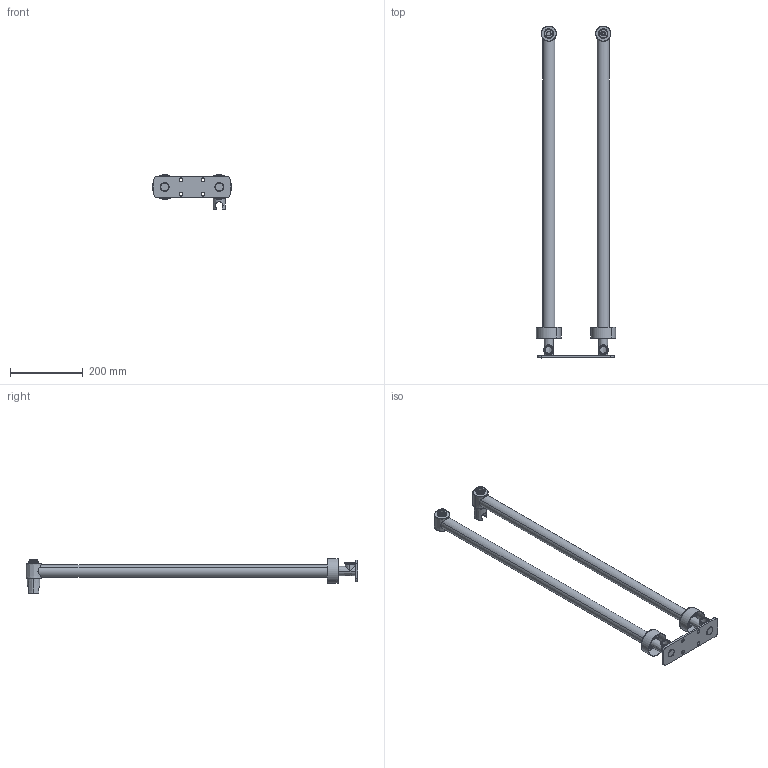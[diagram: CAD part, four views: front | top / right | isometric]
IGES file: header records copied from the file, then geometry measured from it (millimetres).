
Start section: SolidWorks IGES file using analytic representation for surfaces
Global section: file name: C:\Users\J1827277\Desktop\疏擘\FH 8819.IGS,1; native system: 5HSolidWorks 2013; preprocessor: SolidWorks 2013; author: J1827277; date: 130408.112721; units: millimetre
Bounding box: 218 x 914 x 95.5 mm (x, y, z)
Surface area: 277103.5 mm2 (no closed solid volume)
Topology: 0 solids, 0 shells, 184 faces, 3814 edges, 3814 vertices
Faces by surface type: revolution 108, bspline 76
